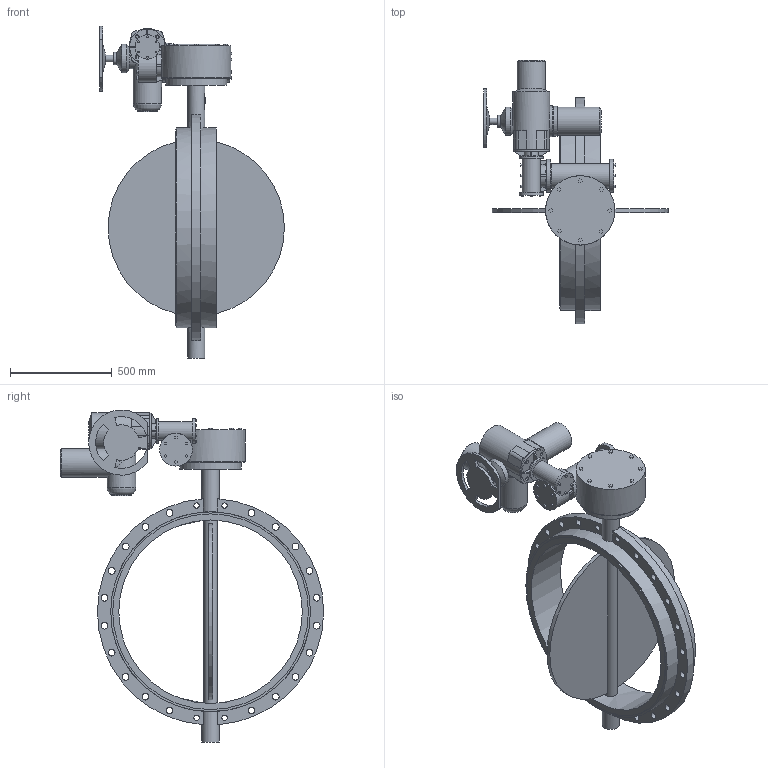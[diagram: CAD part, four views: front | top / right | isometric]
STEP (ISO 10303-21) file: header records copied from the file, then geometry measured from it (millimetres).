
FILE_DESCRIPTION(('STEP AP203'), '1');
FILE_NAME('青蜮铕 017W.YS_DN900_PN10_MT903.A30', '', ('UNSPECIFIED'), ('UNSPECIFIED'), 'ASCON STEP Converter 1.6', 'ASCON Math Kernel', '');
FILE_SCHEMA(('CONFIG_CONTROL_DESIGN'));
Length unit declared in the file: millimetre
Bounding box: 906.35 x 1292 x 1628.49 mm (x, y, z)
Volume: 92238365.8 mm3; surface area: 4680364.5 mm2
Topology: 1 solids, 1 shells, 558 faces, 1442 edges, 950 vertices
Faces by surface type: plane 400, cylinder 111, cone 25, torus 20, bspline 2
Full cylindrical faces by diameter (mm): 13.835 x8, 14 x4, 18 x12, 26.211 x4, 32 x1, 33 x20, 60 x1, 65 x1, 85 x2, 90 x1, 100 x1, 120 x2, 121 x1, 140 x4, 147 x1, 151 x1, 161 x3, 175 x1, 300 x1, 340 x1, 900 x1, 960 x2, 980 x2
Entity records: 24423 total; most frequent: CARTESIAN_POINT 6565, ORIENTED_EDGE 2658, DIRECTION 2629, EDGE_CURVE 1329, LINE 957, VECTOR 957, VERTEX_POINT 941, AXIS2_PLACEMENT_3D 836
